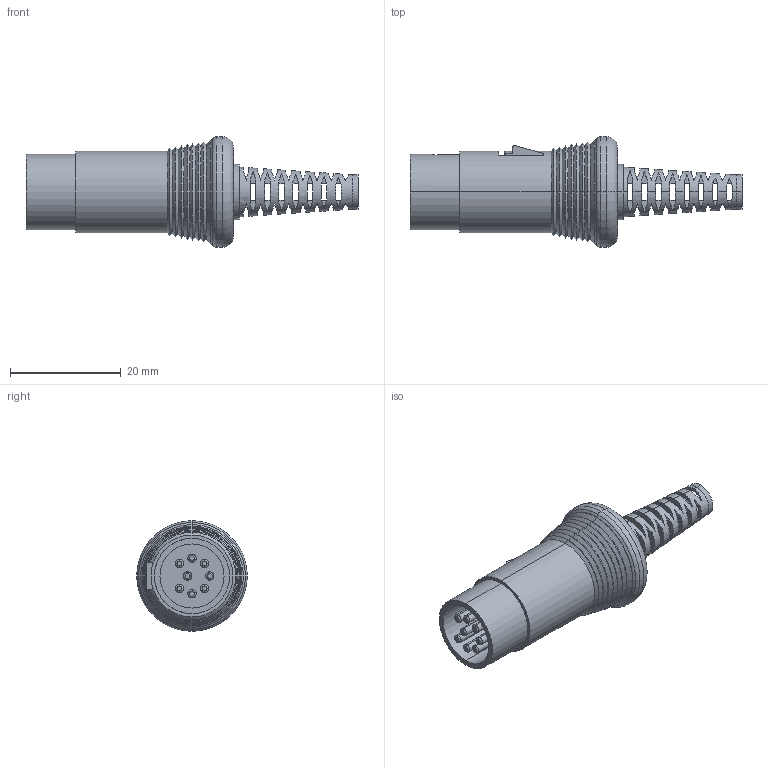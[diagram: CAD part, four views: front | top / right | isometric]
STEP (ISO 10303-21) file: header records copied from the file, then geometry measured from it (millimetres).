
FILE_DESCRIPTION (( 'STEP AP214' ), '1' );
FILE_NAME ('TC-1_儂僔僨儞TCP1300_宎6.2.STEP', '2024-06-18T02:35:30', ( '' ), ( '' ), 'SwSTEP 2.0', 'SolidWorks 2023', '' );
FILE_SCHEMA (( 'AUTOMOTIVE_DESIGN' ));
Length unit declared in the file: millimetre
Products named in the file (1): TC-1_ホシデンTCP1300_径6.2
Bounding box: 60 x 20 x 20 mm (x, y, z)
Volume: 6405.2 mm3; surface area: 4462.5 mm2
Topology: 9 solids, 9 shells, 374 faces, 1082 edges, 700 vertices
Faces by surface type: plane 281, cylinder 39, cone 34, torus 20
Entity records: 12533 total; most frequent: CARTESIAN_POINT 2699, ORIENTED_EDGE 2164, DIRECTION 1986, EDGE_CURVE 1082, AXIS2_PLACEMENT_3D 707, VERTEX_POINT 700, LINE 572, VECTOR 572
